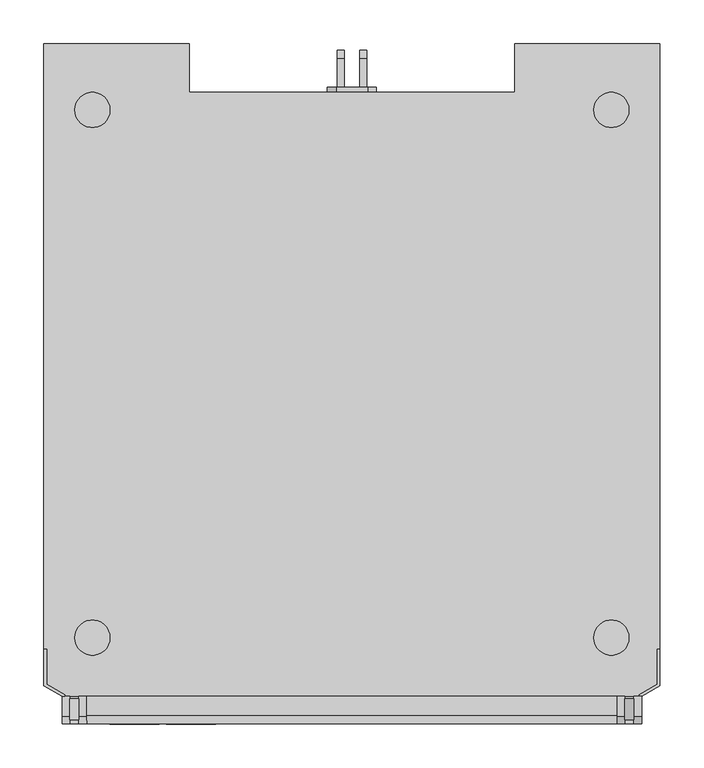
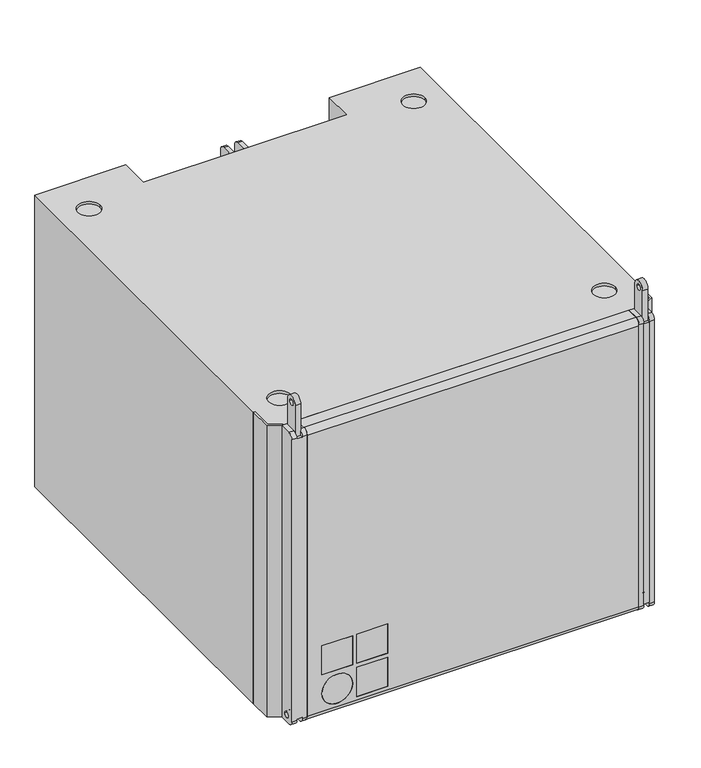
"""IFC4 building model written with IfcOpenShell, lengths in millimetres: proxy geometry, d&b SL-Series XSLi-SUB : XSLi-SUB."""

from ifc_helpers import new_model, si_unit, point, frame, frame_2d, origin, origin_with_axes, place, context, project, spatial, polyline, circle_curve, trimmed, segment, composite_curve, outline, extrude, source, transform, mapped, element, save
from ifc_brep_helpers import plane_surface, cylinder_surface, revolved_surface, advanced_brep


def communication_devices_c673601c(model_context):
    return source(origin(), model_context, "Body", "SolidModel", [
        extrude(outline(polyline([(2810.5, -60.7494027), (2810.5, -29.2494027), (2820.5, -29.2494027), (2820.5, -60.7494027), (2810.5, -60.7494027)])), frame((0.0, 0.0, 16.6), z_axis=(0.0, 0.0, 1.0), x_axis=(1.0, 0.0, 0.0)), (0.0, 0.0, 1.0), 538.4),
        extrude(outline(composite_curve([segment(polyline([(-29.2494027, 565.0), (-29.2494027, 5.0), (-51.7494027, 5.0)]), True, "CONTINUOUS"), segment(trimmed(circle_curve(frame_2d((-51.7494027, 14.0)), 9.0), [point((-51.7494027, 5.0))], [point((-60.7494027, 14.0))], False, "CARTESIAN"), True, "CONTINUOUS"), segment(polyline([(-60.7494027, 14.0), (-60.7494027, 556.0)]), True, "CONTINUOUS"), segment(trimmed(circle_curve(frame_2d((-51.7494027, 556.0)), 9.0), [point((-60.7494027, 556.0))], [point((-51.7494027, 565.0))], False, "CARTESIAN"), True, "CONTINUOUS"), segment(polyline([(-51.7494027, 565.0), (-29.2494027, 565.0)]), True, "CONTINUOUS")], self_intersect=False)), frame((2801.5, 0.0, 0.0), z_axis=(1.0, 0.0, 0.0), x_axis=(0.0, 1.0, 0.0)), (0.0, 0.0, 1.0), 9.0),
        extrude(outline(composite_curve([segment(trimmed(circle_curve(frame_2d((-43.9994027, 615.6033696)), 12.0), [point((-55.9994027, 615.6033696))], [point((-31.9994027, 615.6033696))], False, "CARTESIAN"), True, "CONTINUOUS"), segment(polyline([(-31.9994027, 615.6033696), (-31.9994027, 555.0), (-55.9994027, 555.0), (-55.9994027, 615.6033696)]), True, "CONTINUOUS")], self_intersect=False), holes=[composite_curve([segment(trimmed(circle_curve(frame_2d((-43.9994027, 615.6033696)), 5.15), [point((-49.1494027, 615.6033696))], [point((-38.8494027, 615.6033696))], True, "CARTESIAN"), True, "CONTINUOUS"), segment(trimmed(circle_curve(frame_2d((-43.9994027, 615.6033696)), 5.15), [point((-38.8494027, 615.6033696))], [point((-49.1494027, 615.6033696))], True, "CARTESIAN"), True, "CONTINUOUS")], self_intersect=False)]), frame((2810.5, 0.0, 0.0), z_axis=(1.0, 0.0, 0.0), x_axis=(0.0, 1.0, 0.0)), (0.0, 0.0, 1.0), 10.0),
        extrude(outline(composite_curve([segment(polyline([(-29.2494027, 565.0), (-29.2494027, 5.0), (-51.7494027, 5.0)]), True, "CONTINUOUS"), segment(trimmed(circle_curve(frame_2d((-51.7494027, 14.0)), 9.0), [point((-51.7494027, 5.0))], [point((-60.7494027, 14.0))], False, "CARTESIAN"), True, "CONTINUOUS"), segment(polyline([(-60.7494027, 14.0), (-60.7494027, 556.0)]), True, "CONTINUOUS"), segment(trimmed(circle_curve(frame_2d((-51.7494027, 556.0)), 9.0), [point((-60.7494027, 556.0))], [point((-51.7494027, 565.0))], False, "CARTESIAN"), True, "CONTINUOUS"), segment(polyline([(-51.7494027, 565.0), (-29.2494027, 565.0)]), True, "CONTINUOUS")], self_intersect=False), holes=[composite_curve([segment(trimmed(circle_curve(frame_2d((-43.9994027, 18.5163859)), 5.2), [point((-49.1994027, 18.5163859))], [point((-38.7994027, 18.5163859))], True, "CARTESIAN"), True, "CONTINUOUS"), segment(trimmed(circle_curve(frame_2d((-43.9994027, 18.5163859)), 5.2), [point((-38.7994027, 18.5163859))], [point((-49.1994027, 18.5163859))], True, "CARTESIAN"), True, "CONTINUOUS")], self_intersect=False)]), frame((2820.5, 0.0, 0.0), z_axis=(1.0, 0.0, 0.0), x_axis=(0.0, 1.0, 0.0)), (0.0, 0.0, 1.0), 9.0),
        extrude(outline(polyline([(2153.0, 24.2505973), (2153.0, -15.6816714), (2173.5, -27.5173519), (2173.5, -29.2494027), (2170.5, -29.2494027), (2150.0, -17.4137222), (2150.0, 24.2505973), (2153.0, 24.2505973)])), frame((0.0, 0.0, 5.0), z_axis=(0.0, 0.0, 1.0), x_axis=(1.0, 0.0, 0.0)), (0.0, 0.0, 1.0), 560.0),
        extrude(outline(polyline([(2847.0, 24.2505973), (2850.0, 24.2505973), (2850.0, -17.4137222), (2829.5, -29.2494027), (2826.5, -29.2494027), (2826.5, -27.5173519), (2847.0, -15.6816714), (2847.0, 24.2505973)])), frame((0.0, 0.0, 5.0), z_axis=(0.0, 0.0, 1.0), x_axis=(1.0, 0.0, 0.0)), (0.0, 0.0, 1.0), 560.0),
        advanced_brep(
        [(2281.0, -50.7494027, 141.5), (2225.0, -50.7494027, 141.5), (2225.0, -50.7494027, 85.5), (2281.0, -50.7494027, 85.5), (2345.0, -50.7494027, 141.5), (2289.0, -50.7494027, 141.5), (2289.0, -50.7494027, 85.5), (2345.0, -50.7494027, 85.5), (2345.0, -50.7494027, 77.5), (2289.0, -50.7494027, 77.5), (2289.0, -50.7494027, 21.5), (2345.0, -50.7494027, 21.5), (2225.0, -50.7494027, 49.5), (2281.0, -50.7494027, 49.5), (2281.0, -60.7494027, 85.5), (2281.0, -60.7494027, 141.5), (2225.0, -60.7494027, 85.5), (2225.0, -60.7494027, 141.5), (2345.0, -60.7494027, 85.5), (2345.0, -60.7494027, 141.5), (2289.0, -60.7494027, 85.5), (2289.0, -60.7494027, 141.5), (2345.0, -60.7494027, 21.5), (2345.0, -60.7494027, 77.5), (2289.0, -60.7494027, 21.5), (2289.0, -60.7494027, 77.5), (2281.0, -60.7494027, 49.5), (2225.0, -60.7494027, 49.5), (2801.5, -29.2494027, 5.0), (2801.5, -29.2494027, 565.0), (2801.5, -50.7494027, 565.0), (2801.5, -60.7494027, 555.0), (2801.5, -60.7494027, 15.0), (2801.5, -50.7494027, 5.0), (2198.5, -29.2494027, 5.0), (2198.5, -50.7494027, 5.0), (2198.5, -60.7494027, 15.0), (2198.5, -60.7494027, 555.0), (2198.5, -50.7494027, 565.0), (2198.5, -29.2494027, 565.0)],
        [
            (0, 1),
            (1, 2),
            (2, 3),
            (3, 0),
            (4, 5),
            (5, 6),
            (6, 7),
            (7, 4),
            (8, 9),
            (9, 10),
            (10, 11),
            (11, 8),
            (12, 13, circle_curve(frame((2253.0, -50.7494027, 49.5), z_axis=(0.0, -1.0, 0.0), x_axis=(1.0, 0.0, 0.0)), 28.0)),
            (13, 12, circle_curve(frame((2253.0, -50.7494027, 49.5), z_axis=(0.0, -1.0, 0.0), x_axis=(1.0, 0.0, 0.0)), 28.0)),
            (3, 14),
            (14, 15),
            (15, 0),
            (2, 16),
            (16, 14),
            (1, 17),
            (17, 16),
            (15, 17),
            (7, 18),
            (18, 19),
            (19, 4),
            (6, 20),
            (20, 18),
            (5, 21),
            (21, 20),
            (19, 21),
            (11, 22),
            (22, 23),
            (23, 8),
            (10, 24),
            (24, 22),
            (9, 25),
            (25, 24),
            (23, 25),
            (13, 26),
            (26, 27, circle_curve(frame((2253.0, -60.7494027, 49.5), z_axis=(0.0, -1.0, 0.0), x_axis=(1.0, 0.0, 0.0)), 28.0)),
            (27, 12),
            (27, 26, circle_curve(frame((2253.0, -60.7494027, 49.5), z_axis=(0.0, -1.0, 0.0), x_axis=(1.0, 0.0, 0.0)), 28.0)),
            (28, 29),
            (29, 30),
            (30, 31, circle_curve(frame((2801.5, -50.7494027, 555.0), z_axis=(1.0, 0.0, 0.0), x_axis=(0.0, 1.0, 0.0)), 10.0)),
            (31, 32),
            (32, 33, circle_curve(frame((2801.5, -50.7494027, 15.0), z_axis=(1.0, 0.0, 0.0), x_axis=(0.0, 1.0, 0.0)), 10.0)),
            (33, 28),
            (34, 35),
            (35, 36, circle_curve(frame((2198.5, -50.7494027, 15.0), z_axis=(-1.0, 0.0, 0.0), x_axis=(0.0, 1.0, 0.0)), 10.0)),
            (36, 37),
            (37, 38, circle_curve(frame((2198.5, -50.7494027, 555.0), z_axis=(-1.0, 0.0, 0.0), x_axis=(0.0, 1.0, 0.0)), 10.0)),
            (38, 39),
            (39, 34),
            (28, 34),
            (39, 29),
            (38, 30),
            (37, 31),
            (36, 32),
            (35, 33),
        ],
        [
            plane_surface(frame((2281.0, -50.7494027, 131.0), z_axis=(0.0, -1.0, 0.0), x_axis=(0.0, 0.0, -1.0))),
            plane_surface(frame((2281.0, -50.7494027, 141.5), z_axis=(-1.0, 0.0, 0.0), x_axis=(0.0, -1.0, 0.0))),
            plane_surface(frame((2281.0, -50.7494027, 85.5), z_axis=(0.0, 0.0, 1.0), x_axis=(0.0, -1.0, 0.0))),
            plane_surface(frame((2225.0, -50.7494027, 85.5), z_axis=(1.0, 0.0, 0.0), x_axis=(0.0, -1.0, 0.0))),
            plane_surface(frame((2225.0, -50.7494027, 141.5), z_axis=(0.0, 0.0, -1.0), x_axis=(0.0, -1.0, 0.0))),
            plane_surface(frame((2345.0, -50.7494027, 141.5), z_axis=(-1.0, 0.0, 0.0), x_axis=(0.0, -1.0, 0.0))),
            plane_surface(frame((2345.0, -50.7494027, 85.5), z_axis=(0.0, 0.0, 1.0), x_axis=(0.0, -1.0, 0.0))),
            plane_surface(frame((2289.0, -50.7494027, 85.5), z_axis=(1.0, 0.0, 0.0), x_axis=(0.0, -1.0, 0.0))),
            plane_surface(frame((2289.0, -50.7494027, 141.5), z_axis=(0.0, 0.0, -1.0), x_axis=(0.0, -1.0, 0.0))),
            plane_surface(frame((2345.0, -50.7494027, 77.5), z_axis=(-1.0, 0.0, 0.0), x_axis=(0.0, -1.0, 0.0))),
            plane_surface(frame((2345.0, -50.7494027, 21.5), z_axis=(0.0, 0.0, 1.0), x_axis=(0.0, -1.0, 0.0))),
            plane_surface(frame((2289.0, -50.7494027, 21.5), z_axis=(1.0, 0.0, 0.0), x_axis=(0.0, -1.0, 0.0))),
            plane_surface(frame((2289.0, -50.7494027, 77.5), z_axis=(0.0, 0.0, -1.0), x_axis=(0.0, -1.0, 0.0))),
            revolved_surface(polyline([(2281.0, -50.7494027, 49.5), (2281.0, -60.7494027, 49.5)]), (2253.0, -60.7494027, 49.5), (0.0, 1.0, 0.0)),
            plane_surface(frame((2801.5, -29.2494027, 89.9836141), z_axis=(1.0, 0.0, 0.0), x_axis=(0.0, 0.0, 1.0))),
            plane_surface(frame((2198.5, -29.2494027, 89.9836141), z_axis=(-1.0, 0.0, 0.0), x_axis=(0.0, 0.0, -1.0))),
            plane_surface(frame((2801.5, -29.2494027, 5.0), z_axis=(0.0, 1.0, 0.0), x_axis=(-1.0, 0.0, 0.0))),
            plane_surface(frame((2801.5, -29.2494027, 565.0), z_axis=(0.0, 0.0, 1.0), x_axis=(-1.0, 0.0, 0.0))),
            cylinder_surface(frame((2198.5, -50.7494027, 555.0), z_axis=(1.0, 0.0, 0.0), x_axis=(0.0, 1.0, 0.0)), 10.0),
            plane_surface(frame((2801.5, -60.7494027, 555.0), z_axis=(0.0, -1.0, 0.0), x_axis=(-1.0, 0.0, 0.0))),
            cylinder_surface(frame((2198.5, -50.7494027, 15.0), z_axis=(1.0, 0.0, 0.0), x_axis=(0.0, 1.0, 0.0)), 10.0),
            plane_surface(frame((2801.5, -50.7494027, 5.0), z_axis=(0.0, 0.0, -1.0), x_axis=(-1.0, 0.0, 0.0))),
        ],
        [
            (0, [[1, 2, 3, 4]]),
            (0, [[5, 6, 7, 8]]),
            (0, [[9, 10, 11, 12]]),
            (0, [[13, 14]]),
            (1, [[-4, 15, 16, 17]]),
            (2, [[-3, 18, 19, -15]]),
            (3, [[-2, 20, 21, -18]]),
            (4, [[-1, -17, 22, -20]]),
            (5, [[-8, 23, 24, 25]]),
            (6, [[-7, 26, 27, -23]]),
            (7, [[-6, 28, 29, -26]]),
            (8, [[-5, -25, 30, -28]]),
            (9, [[-12, 31, 32, 33]]),
            (10, [[-11, 34, 35, -31]]),
            (11, [[-10, 36, 37, -34]]),
            (12, [[-9, -33, 38, -36]]),
            (13, [[-14, 39, 40, 41]]),
            (13, [[-13, -41, 42, -39]]),
            (14, [[43, 44, 45, 46, 47, 48]]),
            (15, [[49, 50, 51, 52, 53, 54]]),
            (16, [[-43, 55, -54, 56]]),
            (17, [[-44, -56, -53, 57]]),
            (18, [[-45, -57, -52, 58]]),
            (19, [[-46, -58, -51, 59], [-16, -19, -21, -22], [-24, -27, -29, -30], [-32, -35, -37, -38], [-40, -42]]),
            (20, [[-47, -59, -50, 60]]),
            (21, [[-48, -60, -49, -55]]),
        ],
    ),
        advanced_brep(
        [(2198.5, -29.2494027, 565.0), (2198.5, -51.7494027, 565.0), (2198.5, -60.7494027, 556.0), (2198.5, -60.7494027, 14.0), (2198.5, -51.7494027, 5.0), (2198.5, -29.2494027, 5.0), (2189.5, -29.2494027, 5.0), (2189.5, -51.7494027, 5.0), (2189.5, -60.7494027, 14.0), (2189.5, -60.7494027, 16.6), (2189.5, -29.2494027, 16.6), (2189.5, -60.7494027, 556.0), (2189.5, -51.7494027, 565.0), (2189.5, -29.2494027, 565.0), (2189.5, -29.2494027, 555.0), (2189.5, -60.7494027, 555.0), (2179.5, -60.7494027, 555.0), (2179.5, -60.7494027, 556.0), (2170.5, -60.7494027, 556.0), (2170.5, -60.7494027, 14.0), (2179.5, -60.7494027, 14.0), (2179.5, -60.7494027, 16.6), (2179.5, -29.2494027, 16.6), (2179.5, -29.2494027, 5.0), (2170.5, -29.2494027, 5.0), (2170.5, -29.2494027, 565.0), (2179.5, -29.2494027, 565.0), (2179.5, -29.2494027, 555.0), (2179.5, -48.8333933, 16.6), (2179.5, -39.1654121, 16.6), (2179.5, -51.7494027, 565.0), (2179.5, -51.7494027, 5.0), (2170.5, -51.7494027, 5.0), (2170.5, -51.7494027, 565.0), (2170.5, -49.1994027, 18.5163859), (2170.5, -38.7994027, 18.5163859), (2179.5, -38.7994027, 18.5163859), (2179.5, -49.1994027, 18.5163859)],
        [
            (0, 1),
            (1, 2, circle_curve(frame((2198.5, -51.7494027, 556.0), z_axis=(1.0, 0.0, 0.0), x_axis=(0.0, 1.0, 0.0)), 9.0)),
            (2, 3),
            (3, 4, circle_curve(frame((2198.5, -51.7494027, 14.0), z_axis=(1.0, 0.0, 0.0), x_axis=(0.0, 1.0, 0.0)), 9.0)),
            (4, 5),
            (5, 0),
            (6, 7),
            (7, 8, circle_curve(frame((2189.5, -51.7494027, 14.0), z_axis=(-1.0, 0.0, 0.0), x_axis=(0.0, 1.0, 0.0)), 9.0)),
            (8, 9),
            (9, 10),
            (10, 6),
            (11, 12, circle_curve(frame((2189.5, -51.7494027, 556.0), z_axis=(-1.0, 0.0, 0.0), x_axis=(0.0, 1.0, 0.0)), 9.0)),
            (12, 13),
            (13, 14),
            (14, 15),
            (15, 11),
            (0, 13),
            (12, 1),
            (11, 2),
            (15, 16),
            (16, 17),
            (17, 18),
            (18, 19),
            (19, 20),
            (20, 21),
            (21, 9),
            (8, 3),
            (7, 4),
            (6, 5),
            (10, 22),
            (22, 23),
            (23, 24),
            (24, 25),
            (25, 26),
            (26, 27),
            (27, 14),
            (27, 16),
            (21, 28),
            (28, 29),
            (29, 22),
            (26, 30),
            (30, 17, circle_curve(frame((2179.5, -51.7494027, 556.0), z_axis=(1.0, 0.0, 0.0), x_axis=(0.0, 1.0, 0.0)), 9.0)),
            (20, 31, circle_curve(frame((2179.5, -51.7494027, 14.0), z_axis=(1.0, 0.0, 0.0), x_axis=(0.0, 1.0, 0.0)), 9.0)),
            (31, 23),
            (29, 28, circle_curve(frame((2179.5, -43.9994027, 18.5163859), z_axis=(-1.0, 0.0, 0.0), x_axis=(0.0, 1.0, 0.0)), 5.2)),
            (24, 32),
            (32, 19, circle_curve(frame((2170.5, -51.7494027, 14.0), z_axis=(-1.0, 0.0, 0.0), x_axis=(0.0, 1.0, 0.0)), 9.0)),
            (18, 33, circle_curve(frame((2170.5, -51.7494027, 556.0), z_axis=(-1.0, 0.0, 0.0), x_axis=(0.0, 1.0, 0.0)), 9.0)),
            (33, 25),
            (34, 35, circle_curve(frame((2170.5, -43.9994027, 18.5163859), z_axis=(1.0, 0.0, 0.0), x_axis=(0.0, 1.0, 0.0)), 5.2)),
            (35, 34, circle_curve(frame((2170.5, -43.9994027, 18.5163859), z_axis=(1.0, 0.0, 0.0), x_axis=(0.0, 1.0, 0.0)), 5.2)),
            (33, 30),
            (31, 32),
            (35, 36),
            (36, 37, circle_curve(frame((2179.5, -43.9994027, 18.5163859), z_axis=(1.0, 0.0, 0.0), x_axis=(0.0, 1.0, 0.0)), 5.2)),
            (37, 34),
            (37, 28, circle_curve(frame((2179.5, -43.9994027, 18.5163859), z_axis=(1.0, 0.0, 0.0), x_axis=(0.0, 1.0, 0.0)), 5.2)),
            (29, 36, circle_curve(frame((2179.5, -43.9994027, 18.5163859), z_axis=(1.0, 0.0, 0.0), x_axis=(0.0, 1.0, 0.0)), 5.2)),
        ],
        [
            plane_surface(frame((2198.5, -51.2077891, 565.0), z_axis=(1.0, 0.0, 0.0), x_axis=(0.0, -1.0, 0.0))),
            plane_surface(frame((2189.5, -51.2077891, 565.0), z_axis=(-1.0, 0.0, 0.0), x_axis=(0.0, 1.0, 0.0))),
            plane_surface(frame((2198.5, -29.2494027, 565.0), z_axis=(0.0, 0.0, 1.0), x_axis=(-1.0, 0.0, 0.0))),
            cylinder_surface(frame((2189.5, -51.7494027, 556.0), z_axis=(1.0, 0.0, 0.0), x_axis=(0.0, 1.0, 0.0)), 9.0),
            plane_surface(frame((2198.5, -60.7494027, 556.0), z_axis=(0.0, -1.0, 0.0), x_axis=(-1.0, 0.0, 0.0))),
            cylinder_surface(frame((2189.5, -51.7494027, 14.0), z_axis=(1.0, 0.0, 0.0), x_axis=(0.0, 1.0, 0.0)), 9.0),
            plane_surface(frame((2198.5, -51.7494027, 5.0), z_axis=(0.0, 0.0, -1.0), x_axis=(-1.0, 0.0, 0.0))),
            plane_surface(frame((2198.5, -29.2494027, 5.0), z_axis=(0.0, 1.0, 0.0), x_axis=(-1.0, 0.0, 0.0))),
            plane_surface(frame((2189.5, -29.2494027, 555.0), z_axis=(0.0, 0.0, 1.0), x_axis=(-1.0, 0.0, 0.0))),
            plane_surface(frame((2189.5, -60.7494027, 16.6), z_axis=(0.0, 0.0, -1.0), x_axis=(-1.0, 0.0, 0.0))),
            plane_surface(frame((2179.5, -51.2077891, 565.0), z_axis=(1.0, 0.0, 0.0), x_axis=(0.0, -1.0, 0.0))),
            plane_surface(frame((2170.5, -51.2077891, 565.0), z_axis=(-1.0, 0.0, 0.0), x_axis=(0.0, 1.0, 0.0))),
            plane_surface(frame((2179.5, -29.2494027, 565.0), z_axis=(0.0, 0.0, 1.0), x_axis=(-1.0, 0.0, 0.0))),
            plane_surface(frame((2179.5, -51.7494027, 5.0), z_axis=(0.0, 0.0, -1.0), x_axis=(-1.0, 0.0, 0.0))),
            revolved_surface(polyline([(2170.5, -38.799402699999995, 18.5163859), (2179.5, -38.799402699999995, 18.5163859)]), (2500.0, -43.9994027, 18.5163859), (-1.0, 0.0, 0.0)),
            cylinder_surface(frame((2170.5, -51.7494027, 556.0), z_axis=(1.0, 0.0, 0.0), x_axis=(0.0, 1.0, 0.0)), 9.0),
            cylinder_surface(frame((2170.5, -51.7494027, 14.0), z_axis=(1.0, 0.0, 0.0), x_axis=(0.0, 1.0, 0.0)), 9.0),
            plane_surface(frame((2179.5, -60.7494027, 97.5281973), z_axis=(-1.0, 0.0, 0.0), x_axis=(0.0, 0.0, 1.0))),
        ],
        [
            (0, [[1, 2, 3, 4, 5, 6]]),
            (1, [[7, 8, 9, 10, 11]]),
            (1, [[12, 13, 14, 15, 16]]),
            (2, [[-1, 17, -13, 18]]),
            (3, [[-2, -18, -12, 19]]),
            (4, [[-3, -19, -16, 20, 21, 22, 23, 24, 25, 26, -9, 27]]),
            (5, [[-4, -27, -8, 28]]),
            (6, [[-5, -28, -7, 29]]),
            (7, [[-6, -29, -11, 30, 31, 32, 33, 34, 35, 36, -14, -17]]),
            (8, [[-20, -15, -36, 37]]),
            (9, [[-26, 38, 39, 40, -30, -10]]),
            (10, [[41, 42, -21, -37, -35]]),
            (10, [[43, 44, -31, -40, 45, -38, -25]]),
            (11, [[-33, 46, 47, -23, 48, 49], [50, 51]]),
            (12, [[-41, -34, -49, 52]]),
            (13, [[-44, 53, -46, -32]]),
            (14, [[-51, 54, 55, 56]]),
            (14, [[-50, -56, 57, -45, 58, -54]]),
            (15, [[-42, -52, -48, -22]]),
            (16, [[-43, -24, -47, -53]]),
            (17, [[-39, -57, -55, -58]]),
        ],
    ),
        extrude(outline(composite_curve([segment(trimmed(circle_curve(frame_2d((-43.9994027, 615.6033696)), 12.0), [point((-55.9994027, 615.6033696))], [point((-31.9994027, 615.6033696))], False, "CARTESIAN"), True, "CONTINUOUS"), segment(polyline([(-31.9994027, 615.6033696), (-31.9994027, 555.0), (-55.9994027, 555.0), (-55.9994027, 615.6033696)]), True, "CONTINUOUS")], self_intersect=False), holes=[composite_curve([segment(trimmed(circle_curve(frame_2d((-43.9994027, 615.6033696)), 5.15), [point((-49.1494027, 615.6033696))], [point((-38.8494027, 615.6033696))], True, "CARTESIAN"), True, "CONTINUOUS"), segment(trimmed(circle_curve(frame_2d((-43.9994027, 615.6033696)), 5.15), [point((-38.8494027, 615.6033696))], [point((-49.1494027, 615.6033696))], True, "CARTESIAN"), True, "CONTINUOUS")], self_intersect=False)]), frame((2179.5, 0.0, 0.0), z_axis=(1.0, 0.0, 0.0), x_axis=(0.0, 1.0, 0.0)), (0.0, 0.0, 1.0), 10.0),
        extrude(outline(composite_curve([segment(trimmed(circle_curve(frame_2d((2795.0, 637.2505973)), 20.0), [point((2815.0, 637.2505973))], [point((2775.0, 637.2505973))], False, "CARTESIAN"), True, "CONTINUOUS"), segment(trimmed(circle_curve(frame_2d((2795.0, 637.2505973)), 20.0), [point((2775.0, 637.2505973))], [point((2815.0, 637.2505973))], False, "CARTESIAN"), True, "CONTINUOUS")], self_intersect=False)), origin_with_axes(), (0.0, 0.0, 1.0), 5.0),
        extrude(outline(composite_curve([segment(trimmed(circle_curve(frame_2d((2205.0, 637.2505973)), 20.0), [point((2185.0, 637.2505973))], [point((2225.0, 637.2505973))], False, "CARTESIAN"), True, "CONTINUOUS"), segment(trimmed(circle_curve(frame_2d((2205.0, 637.2505973)), 20.0), [point((2225.0, 637.2505973))], [point((2185.0, 637.2505973))], False, "CARTESIAN"), True, "CONTINUOUS")], self_intersect=False)), origin_with_axes(), (0.0, 0.0, 1.0), 5.0),
        extrude(outline(composite_curve([segment(trimmed(circle_curve(frame_2d((2795.0, 37.2505973)), 20.0), [point((2815.0, 37.2505973))], [point((2775.0, 37.2505973))], False, "CARTESIAN"), True, "CONTINUOUS"), segment(trimmed(circle_curve(frame_2d((2795.0, 37.2505973)), 20.0), [point((2775.0, 37.2505973))], [point((2815.0, 37.2505973))], False, "CARTESIAN"), True, "CONTINUOUS")], self_intersect=False)), origin_with_axes(), (0.0, 0.0, 1.0), 5.0),
        extrude(outline(composite_curve([segment(trimmed(circle_curve(frame_2d((2205.0, 37.2505973)), 20.0), [point((2185.0, 37.2505973))], [point((2225.0, 37.2505973))], False, "CARTESIAN"), True, "CONTINUOUS"), segment(trimmed(circle_curve(frame_2d((2205.0, 37.2505973)), 20.0), [point((2225.0, 37.2505973))], [point((2185.0, 37.2505973))], False, "CARTESIAN"), True, "CONTINUOUS")], self_intersect=False)), origin_with_axes(), (0.0, 0.0, 1.0), 5.0),
        extrude(outline(polyline([(2225.0, -50.7494027), (2281.0, -50.7494027), (2281.0, -60.7494027), (2225.0, -60.7494027), (2225.0, -50.7494027)])), frame((0.0, 0.0, 85.5), z_axis=(0.0, 0.0, 1.0), x_axis=(1.0, 0.0, 0.0)), (0.0, 0.0, 1.0), 56.0),
        extrude(outline(polyline([(2289.0, -50.7494027), (2345.0, -50.7494027), (2345.0, -60.7494027), (2289.0, -60.7494027), (2289.0, -50.7494027)])), frame((0.0, 0.0, 85.5), z_axis=(0.0, 0.0, 1.0), x_axis=(1.0, 0.0, 0.0)), (0.0, 0.0, 1.0), 56.0),
        extrude(outline(polyline([(2289.0, -50.7494027), (2345.0, -50.7494027), (2345.0, -60.7494027), (2289.0, -60.7494027), (2289.0, -50.7494027)])), frame((0.0, 0.0, 21.5), z_axis=(0.0, 0.0, 1.0), x_axis=(1.0, 0.0, 0.0)), (0.0, 0.0, 1.0), 56.0),
        extrude(outline(composite_curve([segment(trimmed(circle_curve(frame_2d((49.5, 2253.0)), 28.0), [point((49.5, 2225.0))], [point((49.5, 2281.0))], False, "CARTESIAN"), True, "CONTINUOUS"), segment(trimmed(circle_curve(frame_2d((49.5, 2253.0)), 28.0), [point((49.5, 2281.0))], [point((49.5, 2225.0))], False, "CARTESIAN"), True, "CONTINUOUS")], self_intersect=False)), frame((0.0, -60.7494027, 0.0), z_axis=(0.0, 1.0, 0.0), x_axis=(0.0, 0.0, 1.0)), (0.0, 0.0, 1.0), 10.0),
        advanced_brep(
        [(2850.0, 712.2505973, 5.0), (2850.0, 24.2505973, 5.0), (2847.0, 24.2505973, 5.0), (2847.0, -15.6816714, 5.0), (2826.5, -27.5173519, 5.0), (2826.5, -29.2494027, 5.0), (2173.5, -29.2494027, 5.0), (2173.5, -27.5173519, 5.0), (2153.0, -15.6816714, 5.0), (2153.0, 24.2505973, 5.0), (2150.0, 24.2505973, 5.0), (2150.0, 712.2505973, 5.0), (2315.0, 712.2505973, 5.0), (2315.0, 657.2503532, 5.0), (2685.0, 657.2503532, 5.0), (2685.0, 712.2505973, 5.0), (2315.0, 712.2505973, 565.0), (2150.0, 712.2505973, 565.0), (2150.0, 24.2505973, 565.0), (2153.0, 24.2505973, 565.0), (2153.0, -15.6816714, 565.0), (2173.5, -27.5173519, 565.0), (2173.5, -29.2494027, 565.0), (2826.5, -29.2494027, 565.0), (2826.5, -27.5173519, 565.0), (2847.0, -15.6816714, 565.0), (2847.0, 24.2505973, 565.0), (2850.0, 24.2505973, 565.0), (2850.0, 712.2505973, 565.0), (2685.0, 712.2505973, 565.0), (2685.0, 657.2503532, 565.0), (2315.0, 657.2503532, 565.0), (2775.0, 637.2505973, 565.0), (2815.0, 637.2505973, 565.0), (2225.0, 637.2505973, 565.0), (2185.0, 637.2505973, 565.0), (2775.0, 37.2505973, 565.0), (2815.0, 37.2505973, 565.0), (2225.0, 37.2505973, 565.0), (2185.0, 37.2505973, 565.0), (2782.0, 707.2505973, 232.5000305), (2774.0, 707.2505973, 224.5000305), (2726.0, 707.2505973, 224.5000305), (2718.0, 707.2505973, 232.5000305), (2718.0, 707.2505973, 337.500061), (2726.0, 707.2505973, 345.500061), (2774.0, 707.2505973, 345.500061), (2782.0, 707.2505973, 337.500061), (2218.0, 707.2505973, 232.5000305), (2218.0, 707.2505973, 337.500061), (2226.0, 707.2505973, 345.500061), (2274.0, 707.2505973, 345.500061), (2282.0, 707.2505973, 337.500061), (2282.0, 707.2505973, 232.5000305), (2274.0, 707.2505973, 224.5000305), (2226.0, 707.2505973, 224.5000305), (2782.0, 712.2505973, 232.5000305), (2774.0, 712.2505973, 224.5000305), (2726.0, 712.2505973, 224.5000305), (2718.0, 712.2505973, 232.5000305), (2718.0, 712.2505973, 337.500061), (2726.0, 712.2505973, 345.500061), (2774.0, 712.2505973, 345.500061), (2782.0, 712.2505973, 337.500061), (2461.0, 657.2503532, 555.0), (2461.0, 657.2503532, 461.160254), (2461.0, 632.2503532, 461.160254), (2461.0, 632.2503532, 555.0), (2685.0, 657.2503532, 555.0), (2539.0, 657.2503532, 555.0), (2539.0, 657.2503532, 461.160254), (2685.0, 657.2503532, 376.8671147), (2685.0, 657.2503532, 368.2068607), (2539.0, 657.2503532, 452.5), (2539.0, 657.2503532, 117.5), (2685.0, 657.2503532, 201.7931393), (2685.0, 657.2503532, 193.1328853), (2539.0, 657.2503532, 108.839746), (2539.0, 657.2503532, 15.0), (2685.0, 657.2503532, 15.0), (2315.0, 657.2503532, 15.0), (2461.0, 657.2503532, 15.0), (2461.0, 657.2503532, 108.839746), (2315.0, 657.2503532, 193.1328853), (2315.0, 657.2503532, 201.7931393), (2461.0, 657.2503532, 117.5), (2461.0, 657.2503532, 452.5), (2315.0, 657.2503532, 368.2068607), (2315.0, 657.2503532, 376.8671147), (2315.0, 657.2503532, 555.0), (2218.0, 712.2505973, 337.500061), (2218.0, 712.2505973, 232.5000305), (2226.0, 712.2505973, 224.5000305), (2274.0, 712.2505973, 224.5000305), (2282.0, 712.2505973, 232.5000305), (2282.0, 712.2505973, 337.500061), (2274.0, 712.2505973, 345.500061), (2226.0, 712.2505973, 345.500061), (2685.0, 632.2503532, 15.0), (2685.0, 632.2503532, 193.1328853), (2685.0, 632.2503532, 201.7931393), (2685.0, 632.2503532, 368.2068607), (2685.0, 632.2503532, 376.8671147), (2685.0, 632.2503532, 555.0), (2539.0, 632.2503532, 15.0), (2539.0, 632.2503532, 108.839746), (2539.0, 632.2503532, 117.5), (2539.0, 632.2503532, 452.5), (2539.0, 632.2503532, 461.160254), (2539.0, 632.2503532, 555.0), (2315.0, 632.2503532, 376.8671147), (2315.0, 632.2503532, 555.0), (2315.0, 632.2503532, 201.7931393), (2315.0, 632.2503532, 368.2068607), (2461.0, 632.2503532, 452.5), (2461.0, 632.2503532, 117.5), (2315.0, 632.2503532, 15.0), (2315.0, 632.2503532, 193.1328853), (2461.0, 632.2503532, 108.839746), (2461.0, 632.2503532, 15.0), (2815.0, 637.2505973, 560.0), (2775.0, 637.2505973, 560.0), (2185.0, 637.2505973, 560.0), (2225.0, 637.2505973, 560.0), (2815.0, 37.2505973, 560.0), (2775.0, 37.2505973, 560.0), (2225.0, 37.2505973, 560.0), (2185.0, 37.2505973, 560.0)],
        [
            (0, 1),
            (1, 2),
            (2, 3),
            (3, 4),
            (4, 5),
            (5, 6),
            (6, 7),
            (7, 8),
            (8, 9),
            (9, 10),
            (10, 11),
            (11, 12),
            (12, 13),
            (13, 14),
            (14, 15),
            (15, 0),
            (16, 17),
            (17, 18),
            (18, 19),
            (19, 20),
            (20, 21),
            (21, 22),
            (22, 23),
            (23, 24),
            (24, 25),
            (25, 26),
            (26, 27),
            (27, 28),
            (28, 29),
            (29, 30),
            (30, 31),
            (31, 16),
            (32, 33, circle_curve(frame((2795.0, 637.2505973, 565.0), z_axis=(0.0, 0.0, -1.0), x_axis=(-1.0, 0.0, 0.0)), 20.0)),
            (33, 32, circle_curve(frame((2795.0, 637.2505973, 565.0), z_axis=(0.0, 0.0, -1.0), x_axis=(-1.0, 0.0, 0.0)), 20.0)),
            (34, 35, circle_curve(frame((2205.0, 637.2505973, 565.0), z_axis=(0.0, 0.0, -1.0), x_axis=(1.0, 0.0, 0.0)), 20.0)),
            (35, 34, circle_curve(frame((2205.0, 637.2505973, 565.0), z_axis=(0.0, 0.0, -1.0), x_axis=(1.0, 0.0, 0.0)), 20.0)),
            (36, 37, circle_curve(frame((2795.0, 37.2505973, 565.0), z_axis=(0.0, 0.0, -1.0), x_axis=(-1.0, 0.0, 0.0)), 20.0)),
            (37, 36, circle_curve(frame((2795.0, 37.2505973, 565.0), z_axis=(0.0, 0.0, -1.0), x_axis=(-1.0, 0.0, 0.0)), 20.0)),
            (38, 39, circle_curve(frame((2205.0, 37.2505973, 565.0), z_axis=(0.0, 0.0, -1.0), x_axis=(1.0, 0.0, 0.0)), 20.0)),
            (39, 38, circle_curve(frame((2205.0, 37.2505973, 565.0), z_axis=(0.0, 0.0, -1.0), x_axis=(1.0, 0.0, 0.0)), 20.0)),
            (0, 28),
            (27, 1),
            (26, 2),
            (40, 41, circle_curve(frame((2774.0, 707.2505973, 232.5000305), z_axis=(0.0, 1.0, 0.0), x_axis=(-1.0, 0.0, 0.0)), 8.0)),
            (41, 42),
            (42, 43, circle_curve(frame((2726.0, 707.2505973, 232.5000305), z_axis=(0.0, 1.0, 0.0), x_axis=(-1.0, 0.0, 0.0)), 8.0)),
            (43, 44),
            (44, 45, circle_curve(frame((2726.0, 707.2505973, 337.500061), z_axis=(0.0, 1.0, 0.0), x_axis=(-1.0, 0.0, 0.0)), 8.0)),
            (45, 46),
            (46, 47, circle_curve(frame((2774.0, 707.2505973, 337.500061), z_axis=(0.0, 1.0, 0.0), x_axis=(-1.0, 0.0, 0.0)), 8.0)),
            (47, 40),
            (48, 49),
            (49, 50, circle_curve(frame((2226.0, 707.2505973, 337.500061), z_axis=(0.0, 1.0, 0.0), x_axis=(1.0, 0.0, 0.0)), 8.0)),
            (50, 51),
            (51, 52, circle_curve(frame((2274.0, 707.2505973, 337.500061), z_axis=(0.0, 1.0, 0.0), x_axis=(1.0, 0.0, 0.0)), 8.0)),
            (52, 53),
            (53, 54, circle_curve(frame((2274.0, 707.2505973, 232.5000305), z_axis=(0.0, 1.0, 0.0), x_axis=(1.0, 0.0, 0.0)), 8.0)),
            (54, 55),
            (55, 48, circle_curve(frame((2226.0, 707.2505973, 232.5000305), z_axis=(0.0, 1.0, 0.0), x_axis=(1.0, 0.0, 0.0)), 8.0)),
            (40, 56),
            (56, 57, circle_curve(frame((2774.0, 712.2505973, 232.5000305), z_axis=(0.0, 1.0, 0.0), x_axis=(-1.0, 0.0, 0.0)), 8.0)),
            (57, 41),
            (57, 58),
            (58, 42),
            (58, 59, circle_curve(frame((2726.0, 712.2505973, 232.5000305), z_axis=(0.0, 1.0, 0.0), x_axis=(-1.0, 0.0, 0.0)), 8.0)),
            (59, 43),
            (59, 60),
            (60, 44),
            (60, 61, circle_curve(frame((2726.0, 712.2505973, 337.500061), z_axis=(0.0, 1.0, 0.0), x_axis=(-1.0, 0.0, 0.0)), 8.0)),
            (61, 45),
            (61, 62),
            (62, 46),
            (62, 63, circle_curve(frame((2774.0, 712.2505973, 337.500061), z_axis=(0.0, 1.0, 0.0), x_axis=(-1.0, 0.0, 0.0)), 8.0)),
            (63, 47),
            (63, 56),
            (64, 65),
            (65, 66),
            (66, 67),
            (67, 64),
            (30, 68),
            (68, 69),
            (69, 70),
            (70, 71),
            (71, 72),
            (72, 73),
            (73, 74),
            (74, 75),
            (75, 76),
            (76, 77),
            (77, 78),
            (78, 79),
            (79, 14),
            (13, 80),
            (80, 81),
            (81, 82),
            (82, 83),
            (83, 84),
            (84, 85),
            (85, 86),
            (86, 87),
            (87, 88),
            (88, 65),
            (64, 89),
            (89, 31),
            (11, 17),
            (16, 12),
            (90, 91),
            (91, 92, circle_curve(frame((2226.0, 712.2505973, 232.5000305), z_axis=(0.0, -1.0, 0.0), x_axis=(1.0, 0.0, 0.0)), 8.0)),
            (92, 93),
            (93, 94, circle_curve(frame((2274.0, 712.2505973, 232.5000305), z_axis=(0.0, -1.0, 0.0), x_axis=(1.0, 0.0, 0.0)), 8.0)),
            (94, 95),
            (95, 96, circle_curve(frame((2274.0, 712.2505973, 337.500061), z_axis=(0.0, -1.0, 0.0), x_axis=(1.0, 0.0, 0.0)), 8.0)),
            (96, 97),
            (97, 90, circle_curve(frame((2226.0, 712.2505973, 337.500061), z_axis=(0.0, -1.0, 0.0), x_axis=(1.0, 0.0, 0.0)), 8.0)),
            (22, 6),
            (5, 23),
            (15, 29),
            (79, 98),
            (98, 99),
            (99, 76),
            (75, 100),
            (100, 101),
            (101, 72),
            (71, 102),
            (102, 103),
            (103, 68),
            (98, 104),
            (104, 105),
            (105, 99),
            (100, 106),
            (106, 107),
            (107, 101),
            (102, 108),
            (108, 109),
            (109, 103),
            (110, 111),
            (111, 67),
            (66, 110),
            (112, 113),
            (113, 114),
            (114, 115),
            (115, 112),
            (116, 117),
            (117, 118),
            (118, 119),
            (119, 116),
            (89, 111),
            (110, 88),
            (87, 113),
            (112, 84),
            (83, 117),
            (116, 80),
            (10, 18),
            (9, 19),
            (109, 69),
            (108, 70),
            (107, 73),
            (106, 74),
            (105, 77),
            (104, 78),
            (119, 81),
            (118, 82),
            (115, 85),
            (114, 86),
            (8, 20),
            (7, 21),
            (4, 24),
            (3, 25),
            (48, 91),
            (90, 49),
            (97, 50),
            (96, 51),
            (95, 52),
            (94, 53),
            (93, 54),
            (92, 55),
            (120, 121, circle_curve(frame((2795.0, 637.2505973, 560.0), z_axis=(0.0, 0.0, 1.0), x_axis=(-1.0, 0.0, 0.0)), 20.0)),
            (121, 120, circle_curve(frame((2795.0, 637.2505973, 560.0), z_axis=(0.0, 0.0, 1.0), x_axis=(-1.0, 0.0, 0.0)), 20.0)),
            (122, 123, circle_curve(frame((2205.0, 637.2505973, 560.0), z_axis=(0.0, 0.0, 1.0), x_axis=(1.0, 0.0, 0.0)), 20.0)),
            (123, 122, circle_curve(frame((2205.0, 637.2505973, 560.0), z_axis=(0.0, 0.0, 1.0), x_axis=(1.0, 0.0, 0.0)), 20.0)),
            (124, 125, circle_curve(frame((2795.0, 37.2505973, 560.0), z_axis=(0.0, 0.0, 1.0), x_axis=(-1.0, 0.0, 0.0)), 20.0)),
            (125, 124, circle_curve(frame((2795.0, 37.2505973, 560.0), z_axis=(0.0, 0.0, 1.0), x_axis=(-1.0, 0.0, 0.0)), 20.0)),
            (126, 127, circle_curve(frame((2205.0, 37.2505973, 560.0), z_axis=(0.0, 0.0, 1.0), x_axis=(1.0, 0.0, 0.0)), 20.0)),
            (127, 126, circle_curve(frame((2205.0, 37.2505973, 560.0), z_axis=(0.0, 0.0, 1.0), x_axis=(1.0, 0.0, 0.0)), 20.0)),
            (32, 121),
            (120, 33),
            (34, 123),
            (122, 35),
            (36, 125),
            (124, 37),
            (38, 126),
            (127, 39),
        ],
        [
            plane_surface(frame((1715.924767, 712.2505973, 5.0), z_axis=(0.0, 0.0, -1.0), x_axis=(1.0, 0.0, 0.0))),
            plane_surface(frame((1715.924767, 712.2505973, 565.0), z_axis=(0.0, 0.0, 1.0), x_axis=(-1.0, 0.0, 0.0))),
            plane_surface(frame((2850.0, 1156.2505973, 560.0), z_axis=(1.0, 0.0, 0.0), x_axis=(0.0, -1.0, 0.0))),
            plane_surface(frame((2780.0, 24.2505973, 5.0), z_axis=(0.0, -1.0, 0.0), x_axis=(1.0, 0.0, 0.0))),
            plane_surface(frame((2766.0, 707.2505973, 232.5000305), z_axis=(0.0, 1.0, 0.0), x_axis=(0.0, 0.0, -1.0))),
            revolved_surface(polyline([(2766.0, 712.2505973, 232.5000305), (2766.0, 707.2505973, 232.5000305)]), (2774.0, 707.2505973, 232.5000305), (0.0, 1.0, 0.0)),
            plane_surface(frame((2774.0, 712.2505973, 224.5000305), z_axis=(0.0, 0.0, 1.0), x_axis=(0.0, -1.0, 0.0))),
            revolved_surface(polyline([(2718.0, 712.2505973, 232.5000305), (2718.0, 707.2505973, 232.5000305)]), (2726.0, 707.2505973, 232.5000305), (0.0, 1.0, 0.0)),
            plane_surface(frame((2718.0, 712.2505973, 232.5000305), z_axis=(1.0, 0.0, 0.0), x_axis=(0.0, -1.0, 0.0))),
            revolved_surface(polyline([(2718.0, 712.2505973, 337.500061), (2718.0, 707.2505973, 337.500061)]), (2726.0, 707.2505973, 337.500061), (0.0, 1.0, 0.0)),
            plane_surface(frame((2726.0, 712.2505973, 345.500061), z_axis=(0.0, 0.0, -1.0), x_axis=(0.0, -1.0, 0.0))),
            revolved_surface(polyline([(2766.0, 712.2505973, 337.500061), (2766.0, 707.2505973, 337.500061)]), (2774.0, 707.2505973, 337.500061), (0.0, 1.0, 0.0)),
            plane_surface(frame((2782.0, 712.2505973, 337.500061), z_axis=(-1.0, 0.0, 0.0), x_axis=(0.0, -1.0, 0.0))),
            plane_surface(frame((2461.0, 657.2503532, 461.160254), z_axis=(-1.0, 0.0, 0.0), x_axis=(0.0, -1.0, 0.0))),
            plane_surface(frame((2685.0, 657.2503532, 565.0), z_axis=(0.0, 1.0, 0.0), x_axis=(0.0, 0.0, -1.0))),
            plane_surface(frame((2315.0, 712.2505973, 560.0), z_axis=(0.0, 1.0, 0.0), x_axis=(0.0, 0.0, -1.0))),
            plane_surface(frame((2200.0, -29.2494027, 560.0), z_axis=(0.0, -1.0, 0.0), x_axis=(0.0, 0.0, -1.0))),
            plane_surface(frame((2800.0, 712.2505973, 560.0), z_axis=(0.0, 1.0, 0.0), x_axis=(0.0, 0.0, -1.0))),
            plane_surface(frame((2685.0, 712.2505973, 560.0), z_axis=(-1.0, 0.0, 0.0), x_axis=(0.0, 0.0, -1.0))),
            plane_surface(frame((2685.0, 632.2503532, 560.0), z_axis=(0.0, 1.0, 0.0), x_axis=(0.0, 0.0, -1.0))),
            plane_surface(frame((2315.0, 632.2503532, 560.0), z_axis=(1.0, 0.0, 0.0), x_axis=(0.0, 0.0, -1.0))),
            plane_surface(frame((2150.0, 24.2505973, -19.8), z_axis=(-1.0, 0.0, 0.0), x_axis=(0.0, 0.0, 1.0))),
            plane_surface(frame((2220.0, 24.2505973, 560.0), z_axis=(0.0, -1.0, 0.0), x_axis=(-1.0, 0.0, 0.0))),
            plane_surface(frame((2685.0, 657.2503532, 555.0), z_axis=(0.0, 0.0, -1.0), x_axis=(0.0, -1.0, 0.0))),
            plane_surface(frame((2539.0, 657.2503532, 555.0), z_axis=(1.0, 0.0, 0.0), x_axis=(0.0, -1.0, 0.0))),
            plane_surface(frame((2539.0, 657.2503532, 461.160254), z_axis=(0.4999999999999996, 0.0, 0.8660254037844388), x_axis=(0.0, -1.0, 0.0))),
            plane_surface(frame((2685.0, 657.2503532, 368.2068607), z_axis=(-0.49999999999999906, 0.0, -0.8660254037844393), x_axis=(0.0, -1.0, 0.0))),
            plane_surface(frame((2539.0, 657.2503532, 452.5), z_axis=(1.0, 0.0, 0.0), x_axis=(0.0, -1.0, 0.0))),
            plane_surface(frame((2539.0, 657.2503532, 117.5), z_axis=(-0.4999999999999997, 0.0, 0.8660254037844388), x_axis=(0.0, -1.0, 0.0))),
            plane_surface(frame((2685.0, 657.2503532, 193.1328853), z_axis=(0.4999999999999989, 0.0, -0.8660254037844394), x_axis=(0.0, -1.0, 0.0))),
            plane_surface(frame((2539.0, 657.2503532, 108.839746), z_axis=(1.0, 0.0, 0.0), x_axis=(0.0, -1.0, 0.0))),
            plane_surface(frame((2539.0, 657.2503532, 15.0), z_axis=(0.0, 0.0, 1.0), x_axis=(0.0, -1.0, 0.0))),
            plane_surface(frame((2315.0, 657.2503532, 15.0), z_axis=(0.0, 0.0, 1.0), x_axis=(0.0, -1.0, 0.0))),
            plane_surface(frame((2461.0, 657.2503532, 15.0), z_axis=(-1.0, 0.0, 0.0), x_axis=(0.0, -1.0, 0.0))),
            plane_surface(frame((2461.0, 657.2503532, 108.839746), z_axis=(-0.4999999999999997, 0.0, -0.8660254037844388), x_axis=(0.0, -1.0, 0.0))),
            plane_surface(frame((2315.0, 657.2503532, 201.7931393), z_axis=(0.49999999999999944, 0.0, 0.866025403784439), x_axis=(0.0, -1.0, 0.0))),
            plane_surface(frame((2461.0, 657.2503532, 117.5), z_axis=(-1.0, 0.0, 0.0), x_axis=(0.0, -1.0, 0.0))),
            plane_surface(frame((2461.0, 657.2503532, 452.5), z_axis=(0.4999999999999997, 0.0, -0.8660254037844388), x_axis=(0.0, -1.0, 0.0))),
            plane_surface(frame((2315.0, 657.2503532, 376.8671147), z_axis=(-0.4999999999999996, 0.0, 0.8660254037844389), x_axis=(0.0, -1.0, 0.0))),
            plane_surface(frame((2461.0, 657.2503532, 555.0), z_axis=(0.0, 0.0, -1.0), x_axis=(0.0, -1.0, 0.0))),
            plane_surface(frame((2153.0, 24.2505973, 565.0), z_axis=(-1.0, 0.0, 0.0), x_axis=(0.0, 0.0, -1.0))),
            plane_surface(frame((2153.0, -15.6816714, 565.0), z_axis=(-0.49999999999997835, -0.8660254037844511, 0.0), x_axis=(0.0, 0.0, -1.0))),
            plane_surface(frame((2173.5, -27.5173519, 565.0), z_axis=(-1.0, 0.0, 0.0), x_axis=(0.0, 0.0, -1.0))),
            plane_surface(frame((2826.5, -29.2494027, 565.0), z_axis=(1.0, 0.0, 0.0), x_axis=(0.0, 0.0, -1.0))),
            plane_surface(frame((2826.5, -27.5173519, 565.0), z_axis=(0.4999999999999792, -0.8660254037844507, 0.0), x_axis=(0.0, 0.0, -1.0))),
            plane_surface(frame((2847.0, -15.6816714, 565.0), z_axis=(1.0, 0.0, 0.0), x_axis=(0.0, 0.0, -1.0))),
            plane_surface(frame((2218.0, 712.2505973, 232.5000305), z_axis=(1.0, 0.0, 0.0), x_axis=(0.0, -1.0, 0.0))),
            revolved_surface(polyline([(2234.0, 712.2505973, 337.500061), (2234.0, 707.2505973, 337.500061)]), (2226.0, 712.2505973, 337.500061), (0.0, 1.0, 0.0)),
            plane_surface(frame((2226.0, 712.2505973, 345.500061), z_axis=(0.0, 0.0, -1.0), x_axis=(0.0, -1.0, 0.0))),
            revolved_surface(polyline([(2282.0, 712.2505973, 337.500061), (2282.0, 707.2505973, 337.500061)]), (2274.0, 712.2505973, 337.500061), (0.0, 1.0, 0.0)),
            plane_surface(frame((2282.0, 712.2505973, 337.500061), z_axis=(-1.0, 0.0, 0.0), x_axis=(0.0, -1.0, 0.0))),
            revolved_surface(polyline([(2282.0, 712.2505973, 232.5000305), (2282.0, 707.2505973, 232.5000305)]), (2274.0, 712.2505973, 232.5000305), (0.0, 1.0, 0.0)),
            plane_surface(frame((2274.0, 712.2505973, 224.5000305), z_axis=(0.0, 0.0, 1.0), x_axis=(0.0, -1.0, 0.0))),
            revolved_surface(polyline([(2234.0, 712.2505973, 232.5000305), (2234.0, 707.2505973, 232.5000305)]), (2226.0, 712.2505973, 232.5000305), (0.0, 1.0, 0.0)),
            plane_surface(frame((1715.924767, 712.2505973, 560.0), z_axis=(0.0, 0.0, 1.0), x_axis=(-1.0, 0.0, 0.0))),
            revolved_surface(polyline([(2775.0, 637.2505973, 565.0), (2775.0, 637.2505973, 560.0)]), (2795.0, 637.2505973, 560.0), (0.0, 0.0, 1.0)),
            revolved_surface(polyline([(2225.0, 637.2505973, 565.0), (2225.0, 637.2505973, 560.0)]), (2205.0, 637.2505973, 565.0), (0.0, 0.0, 1.0)),
            revolved_surface(polyline([(2775.0, 37.2505973, 565.0), (2775.0, 37.2505973, 560.0)]), (2795.0, 37.2505973, 565.0), (0.0, 0.0, 1.0)),
            revolved_surface(polyline([(2225.0, 37.2505973, 565.0), (2225.0, 37.2505973, 560.0)]), (2205.0, 37.2505973, 565.0), (0.0, 0.0, 1.0)),
        ],
        [
            (0, [[1, 2, 3, 4, 5, 6, 7, 8, 9, 10, 11, 12, 13, 14, 15, 16]]),
            (1, [[17, 18, 19, 20, 21, 22, 23, 24, 25, 26, 27, 28, 29, 30, 31, 32], [33, 34], [35, 36], [37, 38], [39, 40]]),
            (2, [[-1, 41, -28, 42]]),
            (3, [[-27, 43, -2, -42]]),
            (4, [[44, 45, 46, 47, 48, 49, 50, 51]]),
            (4, [[52, 53, 54, 55, 56, 57, 58, 59]]),
            (5, [[-44, 60, 61, 62]]),
            (6, [[-45, -62, 63, 64]]),
            (7, [[-46, -64, 65, 66]]),
            (8, [[-47, -66, 67, 68]]),
            (9, [[-48, -68, 69, 70]]),
            (10, [[-49, -70, 71, 72]]),
            (11, [[-50, -72, 73, 74]]),
            (12, [[-51, -74, 75, -60]]),
            (13, [[76, 77, 78, 79]]),
            (14, [[-31, 80, 81, 82, 83, 84, 85, 86, 87, 88, 89, 90, 91, 92, -14, 93, 94, 95, 96, 97, 98, 99, 100, 101, 102, -76, 103, 104]]),
            (15, [[-12, 105, -17, 106], [107, 108, 109, 110, 111, 112, 113, 114]]),
            (16, [[115, -6, 116, -23]]),
            (17, [[-16, 117, -29, -41], [-61, -75, -73, -71, -69, -67, -65, -63]]),
            (18, [[-80, -30, -117, -15, -92, 118, 119, 120, -88, 121, 122, 123, -84, 124, 125, 126]]),
            (19, [[-119, 127, 128, 129]]),
            (19, [[-122, 130, 131, 132]]),
            (19, [[-125, 133, 134, 135]]),
            (19, [[136, 137, -78, 138]]),
            (19, [[139, 140, 141, 142]]),
            (19, [[143, 144, 145, 146]]),
            (20, [[-32, -104, 147, -136, 148, -101, 149, -139, 150, -97, 151, -143, 152, -93, -13, -106]]),
            (21, [[-11, 153, -18, -105]]),
            (22, [[-19, -153, -10, 154]]),
            (23, [[-81, -126, -135, 155]]),
            (24, [[-82, -155, -134, 156]]),
            (25, [[-83, -156, -133, -124]]),
            (26, [[-85, -123, -132, 157]]),
            (27, [[-86, -157, -131, 158]]),
            (28, [[-87, -158, -130, -121]]),
            (29, [[-89, -120, -129, 159]]),
            (30, [[-90, -159, -128, 160]]),
            (31, [[-91, -160, -127, -118]]),
            (32, [[-94, -152, -146, 161]]),
            (33, [[-95, -161, -145, 162]]),
            (34, [[-96, -162, -144, -151]]),
            (35, [[-98, -150, -142, 163]]),
            (36, [[-99, -163, -141, 164]]),
            (37, [[-100, -164, -140, -149]]),
            (38, [[-102, -148, -138, -77]]),
            (39, [[-103, -79, -137, -147]]),
            (40, [[-20, -154, -9, 165]]),
            (41, [[-21, -165, -8, 166]]),
            (42, [[-22, -166, -7, -115]]),
            (43, [[-24, -116, -5, 167]]),
            (44, [[-25, -167, -4, 168]]),
            (45, [[-26, -168, -3, -43]]),
            (46, [[-52, 169, -107, 170]]),
            (47, [[-53, -170, -114, 171]]),
            (48, [[-54, -171, -113, 172]]),
            (49, [[-55, -172, -112, 173]]),
            (50, [[-56, -173, -111, 174]]),
            (51, [[-57, -174, -110, 175]]),
            (52, [[-58, -175, -109, 176]]),
            (53, [[-59, -176, -108, -169]]),
            (54, [[177, 178]]),
            (54, [[179, 180]]),
            (54, [[181, 182]]),
            (54, [[183, 184]]),
            (55, [[185, -177, 186, -33]]),
            (55, [[-185, -34, -186, -178]]),
            (56, [[187, -179, 188, -35]]),
            (56, [[-187, -36, -188, -180]]),
            (57, [[189, -181, 190, -37]]),
            (57, [[-189, -38, -190, -182]]),
            (58, [[191, -184, 192, -39]]),
            (58, [[-191, -40, -192, -183]]),
        ],
    ),
        extrude(outline(composite_curve([segment(trimmed(circle_curve(frame_2d((695.2503532, 30.0)), 10.0), [point((705.2503532, 30.0))], [point((695.2503532, 20.0))], False, "CARTESIAN"), True, "CONTINUOUS"), segment(polyline([(695.2503532, 20.0), (663.2503532, 20.0), (663.2503532, 550.0), (695.2503532, 550.0)]), True, "CONTINUOUS"), segment(trimmed(circle_curve(frame_2d((695.2503532, 540.0)), 10.0), [point((695.2503532, 550.0))], [point((705.2503532, 540.0))], False, "CARTESIAN"), True, "CONTINUOUS"), segment(polyline([(705.2503532, 540.0), (705.2503532, 30.0)]), True, "CONTINUOUS")], self_intersect=False)), frame((2508.75, 0.0, 0.0), z_axis=(1.0, 0.0, 0.0), x_axis=(0.0, 1.0, 0.0)), (0.0, 0.0, 1.0), 8.0),
        extrude(outline(composite_curve([segment(trimmed(circle_curve(frame_2d((695.2503532, 30.0)), 10.0), [point((705.2503532, 30.0))], [point((695.2503532, 20.0))], False, "CARTESIAN"), True, "CONTINUOUS"), segment(polyline([(695.2503532, 20.0), (663.2503532, 20.0), (663.2503532, 550.0), (695.2503532, 550.0)]), True, "CONTINUOUS"), segment(trimmed(circle_curve(frame_2d((695.2503532, 540.0)), 10.0), [point((695.2503532, 550.0))], [point((705.2503532, 540.0))], False, "CARTESIAN"), True, "CONTINUOUS"), segment(polyline([(705.2503532, 540.0), (705.2503532, 30.0)]), True, "CONTINUOUS")], self_intersect=False)), frame((2483.25, 0.0, 0.0), z_axis=(1.0, 0.0, 0.0), x_axis=(0.0, 1.0, 0.0)), (0.0, 0.0, 1.0), 8.0),
        extrude(outline(polyline([(201.7931393, 2315.0), (117.5, 2461.0), (452.5, 2461.0), (368.2068607, 2315.0), (201.7931393, 2315.0)])), frame((0.0, 632.2503532, 0.0), z_axis=(0.0, 1.0, 0.0), x_axis=(0.0, 0.0, 1.0)), (0.0, 0.0, 1.0), 25.0),
        extrude(outline(polyline([(201.7931393, 2685.0), (368.2068607, 2685.0), (452.5, 2539.0), (117.5, 2539.0), (201.7931393, 2685.0)])), frame((0.0, 632.2503532, 0.0), z_axis=(0.0, 1.0, 0.0), x_axis=(0.0, 0.0, 1.0)), (0.0, 0.0, 1.0), 25.0),
        extrude(outline(polyline([(555.0, 2315.0), (376.8671147, 2315.0), (461.160254, 2461.0), (555.0, 2461.0), (555.0, 2315.0)])), frame((0.0, 632.2503532, 0.0), z_axis=(0.0, 1.0, 0.0), x_axis=(0.0, 0.0, 1.0)), (0.0, 0.0, 1.0), 25.0),
        extrude(outline(polyline([(193.1328853, 2315.0), (15.0, 2315.0), (15.0, 2461.0), (108.839746, 2461.0), (193.1328853, 2315.0)])), frame((0.0, 632.2503532, 0.0), z_axis=(0.0, 1.0, 0.0), x_axis=(0.0, 0.0, 1.0)), (0.0, 0.0, 1.0), 25.0),
        extrude(outline(polyline([(555.0, 2685.0), (555.0, 2539.0), (461.160254, 2539.0), (376.8671147, 2685.0), (555.0, 2685.0)])), frame((0.0, 632.2503532, 0.0), z_axis=(0.0, 1.0, 0.0), x_axis=(0.0, 0.0, 1.0)), (0.0, 0.0, 1.0), 25.0),
        extrude(outline(polyline([(193.1328853, 2685.0), (108.839746, 2539.0), (15.0, 2539.0), (15.0, 2685.0), (193.1328853, 2685.0)])), frame((0.0, 632.2503532, 0.0), z_axis=(0.0, 1.0, 0.0), x_axis=(0.0, 0.0, 1.0)), (0.0, 0.0, 1.0), 25.0),
        extrude(outline(composite_curve([segment(trimmed(circle_curve(frame_2d((20.0, 2482.0)), 10.0), [point((20.0, 2472.0))], [point((10.0, 2482.0))], False, "CARTESIAN"), True, "CONTINUOUS"), segment(polyline([(10.0, 2482.0), (10.0, 2518.0)]), True, "CONTINUOUS"), segment(trimmed(circle_curve(frame_2d((20.0, 2518.0)), 10.0), [point((10.0, 2518.0))], [point((20.0, 2528.0))], False, "CARTESIAN"), True, "CONTINUOUS"), segment(polyline([(20.0, 2528.0), (550.0, 2528.0)]), True, "CONTINUOUS"), segment(trimmed(circle_curve(frame_2d((550.0, 2518.0)), 10.0), [point((550.0, 2528.0))], [point((560.0, 2518.0))], False, "CARTESIAN"), True, "CONTINUOUS"), segment(polyline([(560.0, 2518.0), (560.0, 2482.0)]), True, "CONTINUOUS"), segment(trimmed(circle_curve(frame_2d((550.0, 2482.0)), 10.0), [point((560.0, 2482.0))], [point((550.0, 2472.0))], False, "CARTESIAN"), True, "CONTINUOUS"), segment(polyline([(550.0, 2472.0), (20.0, 2472.0)]), True, "CONTINUOUS")], self_intersect=False)), frame((0.0, 657.2503532, 0.0), z_axis=(0.0, 1.0, 0.0), x_axis=(0.0, 0.0, 1.0)), (0.0, 0.0, 1.0), 6.0),
    ])


if __name__ == "__main__":
    model = new_model("IFC4")
    model_context = context("Model", 3, world=origin())
    ifc_project = project(units=[si_unit("LENGTHUNIT", "METRE", prefix="MILLI")], contexts=[model_context])
    site = spatial("IfcSite", under=ifc_project)
    building = spatial("IfcBuilding", under=site)
    placement = place(None, origin())
    communication_devices_shape = communication_devices_c673601c(model_context)
    element("IfcBuildingElementProxy", 1, Name="d&b SL-Series XSLi-SUB : XSLi-SUB", ObjectType="d&b SL-Series XSLi-SUB : XSLi-SUB", at=placement, inside=building, context=model_context, shape_type="MappedRepresentation", body=[
        mapped(communication_devices_shape, transform((0.0, 0.0, 0.0), x_axis=(1.0, 0.0, 0.0), y_axis=(0.0, 1.0, 0.0), z_axis=(0.0, 0.0, 1.0))),
    ])
    save(model, "model.ifc")
